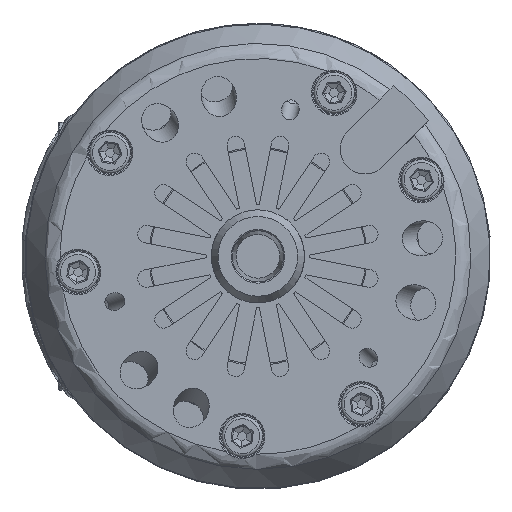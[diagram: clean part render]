
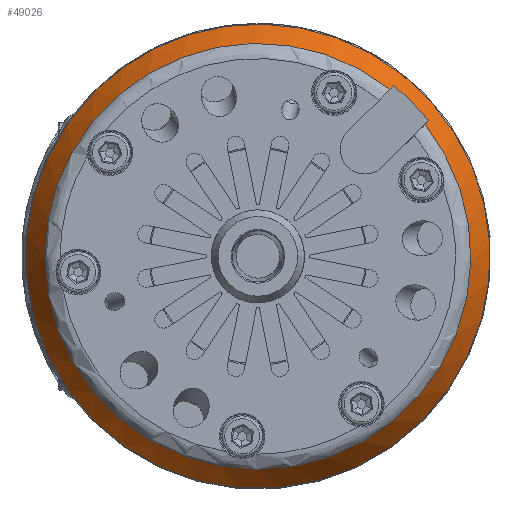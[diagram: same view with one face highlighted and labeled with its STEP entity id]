
A CAD part, front view. The second image highlights one B-rep face of the part: STEP entity #49026.
In plain terms, the highlighted conical face has half-angle 30 degrees and reference radius 36.566 mm.
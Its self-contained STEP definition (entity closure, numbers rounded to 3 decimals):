
#38 = AXIS2_PLACEMENT_3D ( 'NONE', #16238, #36287, #24491 ) ;
#944 = B_SPLINE_CURVE_WITH_KNOTS ( 'NONE', 3,
 ( #34091, #34826, #30297, #26554 ),
 .UNSPECIFIED., .F., .F.,
 ( 4, 4 ),
 ( 0.024, 0.025 ),
 .UNSPECIFIED. ) ;
#1215 = CARTESIAN_POINT ( 'NONE',  ( 29.303, -16.2, 23.292 ) ) ;
#1429 = ORIENTED_EDGE ( 'NONE', *, *, #31669, .F. ) ;
#1656 = CIRCLE ( 'NONE', #38, 36.566 ) ;
#2119 = DIRECTION ( 'NONE',  ( -0.707, 0., 0.707 ) ) ;
#2396 = DIRECTION ( 'NONE',  ( 0.707, 0., -0.707 ) ) ;
#6538 = EDGE_LOOP ( 'NONE', ( #42840 ) ) ;
#8562 = VERTEX_POINT ( 'NONE', #46655 ) ;
#9130 = FACE_BOUND ( 'NONE', #48875, .T. ) ;
#10766 = DIRECTION ( 'NONE',  ( 0., -1., 0. ) ) ;
#11480 = ORIENTED_EDGE ( 'NONE', *, *, #20641, .F. ) ;
#11585 = CARTESIAN_POINT ( 'NONE',  ( 28.19, -11.984, -28.19 ) ) ;
#13119 = B_SPLINE_CURVE_WITH_KNOTS ( 'NONE', 3,
 ( #35560, #25005, #40313, #21245 ),
 .UNSPECIFIED., .F., .F.,
 ( 4, 4 ),
 ( 0.026, 0.027 ),
 .UNSPECIFIED. ) ;
#14131 = VERTEX_POINT ( 'NONE', #47309 ) ;
#14247 = CARTESIAN_POINT ( 'NONE',  ( 28.686, -17.7, 22.676 ) ) ;
#16238 = CARTESIAN_POINT ( 'NONE',  ( 0., -17.7, 0. ) ) ;
#17177 = FACE_OUTER_BOUND ( 'NONE', #6538, .T. ) ;
#20641 = EDGE_CURVE ( 'NONE', #14131, #27893, #1656, .T. ) ;
#21245 = CARTESIAN_POINT ( 'NONE',  ( 29.303, -16.2, 23.292 ) ) ;
#22311 = DIRECTION ( 'NONE',  ( 0.707, 0., -0.707 ) ) ;
#22814 = CARTESIAN_POINT ( 'NONE',  ( 0., -11.984, 0. ) ) ;
#22907 = ORIENTED_EDGE ( 'NONE', *, *, #28619, .F. ) ;
#23383 = VERTEX_POINT ( 'NONE', #11585 ) ;
#23959 = CIRCLE ( 'NONE', #31986, 39.866 ) ;
#24491 = DIRECTION ( 'NONE',  ( 0.707, 0., -0.707 ) ) ;
#25005 = CARTESIAN_POINT ( 'NONE',  ( 28.892, -17.2, 22.881 ) ) ;
#25401 = ORIENTED_EDGE ( 'NONE', *, *, #43941, .T. ) ;
#26554 = CARTESIAN_POINT ( 'NONE',  ( 22.676, -17.7, 28.686 ) ) ;
#27893 = VERTEX_POINT ( 'NONE', #14247 ) ;
#28619 = EDGE_CURVE ( 'NONE', #27893, #39743, #13119, .T. ) ;
#30297 = CARTESIAN_POINT ( 'NONE',  ( 22.881, -17.2, 28.892 ) ) ;
#31669 = EDGE_CURVE ( 'NONE', #8562, #14131, #944, .T. ) ;
#31804 = CIRCLE ( 'NONE', #32594, 37.432 ) ;
#31986 = AXIS2_PLACEMENT_3D ( 'NONE', #22814, #10766, #22311 ) ;
#32492 = DIRECTION ( 'NONE',  ( 0., 1., 0. ) ) ;
#32594 = AXIS2_PLACEMENT_3D ( 'NONE', #36259, #32492, #2396 ) ;
#33708 = AXIS2_PLACEMENT_3D ( 'NONE', #40240, #36480, #2119 ) ;
#34091 = CARTESIAN_POINT ( 'NONE',  ( 23.292, -16.2, 29.303 ) ) ;
#34826 = CARTESIAN_POINT ( 'NONE',  ( 23.087, -16.7, 29.097 ) ) ;
#35560 = CARTESIAN_POINT ( 'NONE',  ( 28.686, -17.7, 22.676 ) ) ;
#36259 = CARTESIAN_POINT ( 'NONE',  ( 0., -16.2, 0. ) ) ;
#36287 = DIRECTION ( 'NONE',  ( 0., -1., 0. ) ) ;
#36480 = DIRECTION ( 'NONE',  ( 0., 1., 0. ) ) ;
#37678 = CONICAL_SURFACE ( 'NONE', #33708, 36.566, 0.524 ) ;
#39743 = VERTEX_POINT ( 'NONE', #1215 ) ;
#40240 = CARTESIAN_POINT ( 'NONE',  ( 0., -17.7, 0. ) ) ;
#40313 = CARTESIAN_POINT ( 'NONE',  ( 29.097, -16.7, 23.087 ) ) ;
#42840 = ORIENTED_EDGE ( 'NONE', *, *, #46414, .T. ) ;
#43941 = EDGE_CURVE ( 'NONE', #8562, #39743, #31804, .T. ) ;
#46414 = EDGE_CURVE ( 'NONE', #23383, #23383, #23959, .T. ) ;
#46655 = CARTESIAN_POINT ( 'NONE',  ( 23.292, -16.2, 29.303 ) ) ;
#47309 = CARTESIAN_POINT ( 'NONE',  ( 22.676, -17.7, 28.686 ) ) ;
#48875 = EDGE_LOOP ( 'NONE', ( #1429, #25401, #22907, #11480 ) ) ;
#49026 = ADVANCED_FACE ( 'NONE', ( #17177, #9130 ), #37678, .T. ) ;
